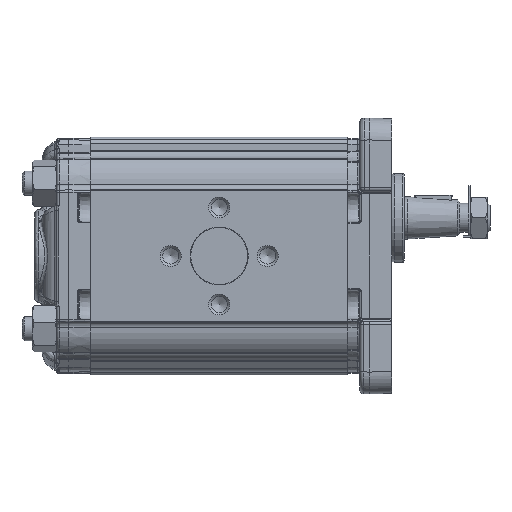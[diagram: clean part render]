
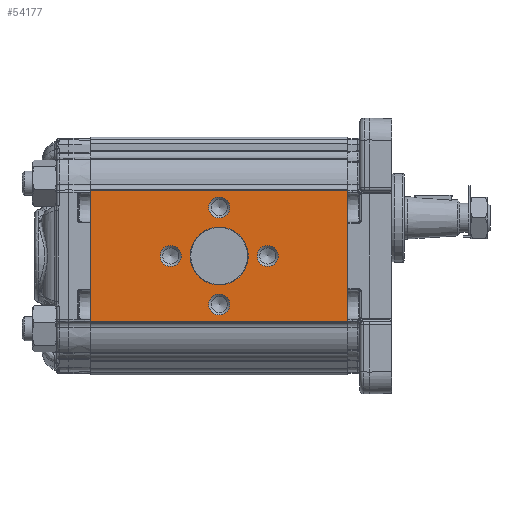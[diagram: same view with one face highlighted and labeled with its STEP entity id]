
A CAD part, left-side view. The second image highlights one B-rep face of the part: STEP entity #54177.
In plain terms, the highlighted planar face has unit normal (-1, 0, 0).
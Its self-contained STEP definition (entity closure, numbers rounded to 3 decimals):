
#3597=PLANE('',#57371);
#4588=LINE('',#77710,#6439);
#4589=LINE('',#77713,#6440);
#4590=LINE('',#77715,#6441);
#4591=LINE('',#77717,#6442);
#6439=VECTOR('',#63267,1000.);
#6440=VECTOR('',#63268,1000.);
#6441=VECTOR('',#63269,1000.);
#6442=VECTOR('',#63270,1000.);
#11592=ORIENTED_EDGE('',*,*,#20881,.T.);
#11593=ORIENTED_EDGE('',*,*,#20882,.T.);
#11594=ORIENTED_EDGE('',*,*,#20883,.T.);
#11595=ORIENTED_EDGE('',*,*,#20884,.T.);
#11596=ORIENTED_EDGE('',*,*,#20885,.T.);
#11597=ORIENTED_EDGE('',*,*,#20886,.F.);
#11598=ORIENTED_EDGE('',*,*,#20887,.F.);
#11599=ORIENTED_EDGE('',*,*,#20888,.T.);
#11600=ORIENTED_EDGE('',*,*,#20889,.T.);
#20881=EDGE_CURVE('',#25813,#25813,#28917,.F.);
#20882=EDGE_CURVE('',#25814,#25814,#28918,.F.);
#20883=EDGE_CURVE('',#25815,#25815,#28919,.F.);
#20884=EDGE_CURVE('',#25816,#25816,#28920,.F.);
#20885=EDGE_CURVE('',#25817,#25817,#28921,.F.);
#20886=EDGE_CURVE('',#25818,#25819,#4588,.T.);
#20887=EDGE_CURVE('',#25820,#25818,#4589,.T.);
#20888=EDGE_CURVE('',#25820,#25821,#4590,.T.);
#20889=EDGE_CURVE('',#25821,#25819,#4591,.T.);
#25813=VERTEX_POINT('',#77701);
#25814=VERTEX_POINT('',#77703);
#25815=VERTEX_POINT('',#77705);
#25816=VERTEX_POINT('',#77707);
#25817=VERTEX_POINT('',#77709);
#25818=VERTEX_POINT('',#77711);
#25819=VERTEX_POINT('',#77712);
#25820=VERTEX_POINT('',#77714);
#25821=VERTEX_POINT('',#77716);
#28917=CIRCLE('',#57372,4.324);
#28918=CIRCLE('',#57373,4.324);
#28919=CIRCLE('',#57374,4.324);
#28920=CIRCLE('',#57375,4.324);
#28921=CIRCLE('',#57376,11.95);
#30897=EDGE_LOOP('',(#11592));
#30898=EDGE_LOOP('',(#11593));
#30899=EDGE_LOOP('',(#11594));
#30900=EDGE_LOOP('',(#11595));
#30901=EDGE_LOOP('',(#11596));
#30902=EDGE_LOOP('',(#11597,#11598,#11599,#11600));
#33738=FACE_BOUND('',#30897,.T.);
#33739=FACE_BOUND('',#30898,.T.);
#33740=FACE_BOUND('',#30899,.T.);
#33741=FACE_BOUND('',#30900,.T.);
#33742=FACE_BOUND('',#30901,.T.);
#33743=FACE_BOUND('',#30902,.T.);
#54177=ADVANCED_FACE('',(#33738,#33739,#33740,#33741,#33742,#33743),#3597,
 .T.);
#57371=AXIS2_PLACEMENT_3D('',#77699,#63255,#63256);
#57372=AXIS2_PLACEMENT_3D('',#77700,#63257,#63258);
#57373=AXIS2_PLACEMENT_3D('',#77702,#63259,#63260);
#57374=AXIS2_PLACEMENT_3D('',#77704,#63261,#63262);
#57375=AXIS2_PLACEMENT_3D('',#77706,#63263,#63264);
#57376=AXIS2_PLACEMENT_3D('',#77708,#63265,#63266);
#63255=DIRECTION('',(-1.,0.,0.));
#63256=DIRECTION('',(0.,0.,1.));
#63257=DIRECTION('',(-1.,0.,0.));
#63258=DIRECTION('',(0.,0.,1.));
#63259=DIRECTION('',(-1.,0.,0.));
#63260=DIRECTION('',(0.,0.,1.));
#63261=DIRECTION('',(-1.,0.,0.));
#63262=DIRECTION('',(0.,0.,1.));
#63263=DIRECTION('',(-1.,0.,0.));
#63264=DIRECTION('',(0.,0.,1.));
#63265=DIRECTION('',(-1.,0.,0.));
#63266=DIRECTION('',(0.,0.,1.));
#63267=DIRECTION('',(0.,0.,-1.));
#63268=DIRECTION('',(0.,-1.,0.));
#63269=DIRECTION('',(0.,0.,-1.));
#63270=DIRECTION('',(0.,-1.,0.));
#77699=CARTESIAN_POINT('',(-43.,106.,27.048));
#77700=CARTESIAN_POINT('',(-43.,33.,0.));
#77701=CARTESIAN_POINT('',(-43.,33.,4.324));
#77702=CARTESIAN_POINT('',(-43.,73.,0.));
#77703=CARTESIAN_POINT('',(-43.,73.,4.324));
#77704=CARTESIAN_POINT('',(-43.,53.,-20.));
#77705=CARTESIAN_POINT('',(-43.,53.,-15.677));
#77706=CARTESIAN_POINT('',(-43.,53.,20.));
#77707=CARTESIAN_POINT('',(-43.,53.,24.324));
#77708=CARTESIAN_POINT('',(-43.,53.,0.));
#77709=CARTESIAN_POINT('',(-43.,53.,11.95));
#77710=CARTESIAN_POINT('',(-43.,0.,27.048));
#77711=CARTESIAN_POINT('',(-43.,0.,27.048));
#77712=CARTESIAN_POINT('',(-43.,0.,-27.048));
#77713=CARTESIAN_POINT('',(-43.,106.,27.048));
#77714=CARTESIAN_POINT('',(-43.,106.,27.048));
#77715=CARTESIAN_POINT('',(-43.,106.,27.048));
#77716=CARTESIAN_POINT('',(-43.,106.,-27.048));
#77717=CARTESIAN_POINT('',(-43.,106.,-27.048));
